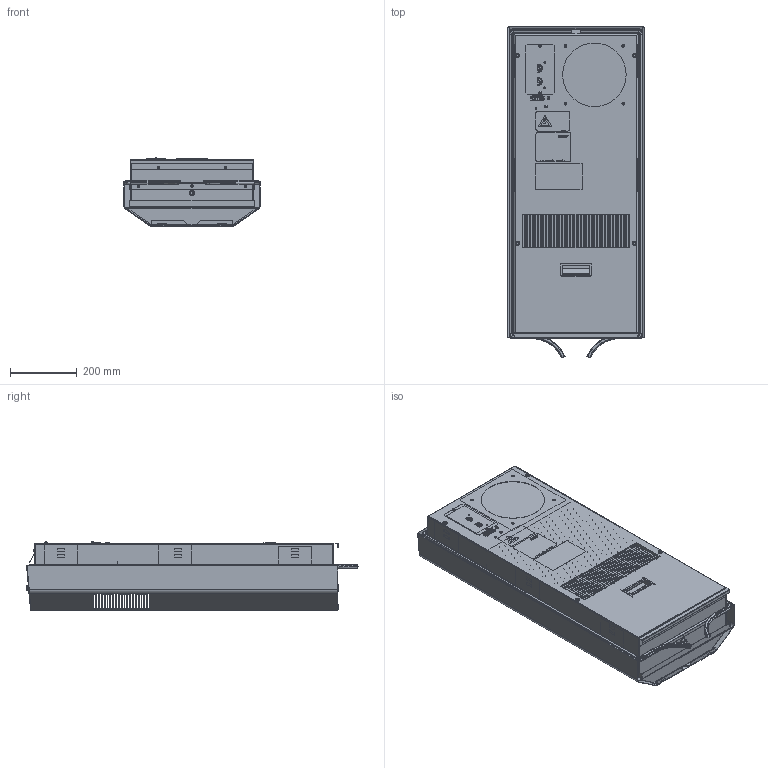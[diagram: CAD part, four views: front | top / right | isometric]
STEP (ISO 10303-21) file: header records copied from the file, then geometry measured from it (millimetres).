
FILE_DESCRIPTION (( 'STEP AP203' ), '1' );
FILE_NAME ('30297-101_PAI.STEP', '2012-11-23T03:35:55', ( 'pfannenberg' ), ( 'Microsoft' ), 'SwSTEP 2.0', 'SolidWorks 2011', '' );
FILE_SCHEMA (( 'CONFIG_CONTROL_DESIGN' ));
Length unit declared in the file: millimetre
Products named in the file (1): 30297-101_PAI
Bounding box: 410 x 993.82 x 204.15 mm (x, y, z)
Surface area: 10229971.5 mm2 (no closed solid volume)
Topology: 0 solids, 158 shells, 1352 faces, 8601 edges, 7065 vertices
Faces by surface type: plane 796, cylinder 363, torus 72, bspline 53, sphere 36, cone 32
Entity records: 95059 total; most frequent: CARTESIAN_POINT 31756, DIRECTION 11905, ORIENTED_EDGE 11336, EDGE_CURVE 8601, VERTEX_POINT 7065, VECTOR 5633, LINE 5633, AXIS2_PLACEMENT_3D 3136
